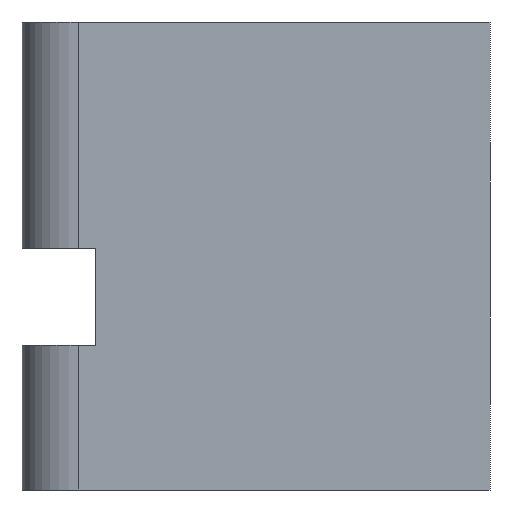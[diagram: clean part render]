
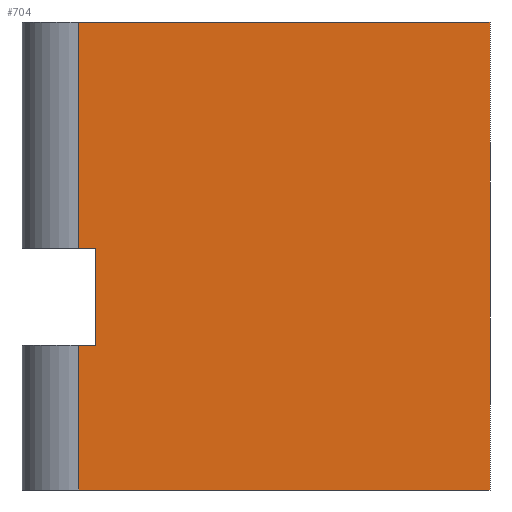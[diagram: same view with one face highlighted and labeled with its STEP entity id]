
A CAD part, left-side view. The second image highlights one B-rep face of the part: STEP entity #704.
In plain terms, the highlighted planar face has unit normal (-1, 0, 0).
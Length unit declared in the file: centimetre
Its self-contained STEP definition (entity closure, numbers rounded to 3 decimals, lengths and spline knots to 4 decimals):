
#2 = EDGE_CURVE ( 'NONE', #586, #856, #378, .T. ) ;
#11 = CARTESIAN_POINT ( 'NONE',  ( 0., 878.8506, 516.3605 ) ) ;
#23 = CARTESIAN_POINT ( 'NONE',  ( 0., 841.9747, 308.9249 ) ) ;
#27 = VECTOR ( 'NONE', #652, 100. ) ;
#36 = DIRECTION ( 'NONE',  ( 1., 0., 0. ) ) ;
#63 = VECTOR ( 'NONE', #627, 100. ) ;
#92 = DIRECTION ( 'NONE',  ( 0., 0., -1. ) ) ;
#97 = CARTESIAN_POINT ( 'NONE',  ( 0., 878.8506, 308.9249 ) ) ;
#108 = DIRECTION ( 'NONE',  ( 0., 0., -1. ) ) ;
#111 = CARTESIAN_POINT ( 'NONE',  ( 0., 878.8506, 1000. ) ) ;
#129 = EDGE_CURVE ( 'NONE', #579, #178, #594, .T. ) ;
#178 = VERTEX_POINT ( 'NONE', #11 ) ;
#198 = DIRECTION ( 'NONE',  ( 0., 0., 1. ) ) ;
#232 = CARTESIAN_POINT ( 'NONE',  ( 0., 841.9747, 308.9249 ) ) ;
#236 = CARTESIAN_POINT ( 'NONE',  ( 0., 841.9747, 308.9249 ) ) ;
#237 = EDGE_CURVE ( 'NONE', #243, #551, #471, .T. ) ;
#243 = VERTEX_POINT ( 'NONE', #747 ) ;
#250 = EDGE_CURVE ( 'NONE', #856, #579, #756, .T. ) ;
#270 = VECTOR ( 'NONE', #505, 100. ) ;
#271 = EDGE_CURVE ( 'NONE', #559, #791, #556, .T. ) ;
#277 = DIRECTION ( 'NONE',  ( 0., 0., -1. ) ) ;
#280 = ORIENTED_EDGE ( 'NONE', *, *, #316, .F. ) ;
#287 = ORIENTED_EDGE ( 'NONE', *, *, #521, .T. ) ;
#289 = CARTESIAN_POINT ( 'NONE',  ( 0., 0., 0. ) ) ;
#291 = VECTOR ( 'NONE', #108, 100. ) ;
#316 = EDGE_CURVE ( 'NONE', #791, #551, #359, .T. ) ;
#349 = DIRECTION ( 'NONE',  ( 0., -1., 0. ) ) ;
#359 = LINE ( 'NONE', #765, #489 ) ;
#377 = AXIS2_PLACEMENT_3D ( 'NONE', #635, #36, #277 ) ;
#378 = LINE ( 'NONE', #236, #27 ) ;
#389 = VECTOR ( 'NONE', #349, 100. ) ;
#399 = VECTOR ( 'NONE', #198, 100. ) ;
#406 = ORIENTED_EDGE ( 'NONE', *, *, #237, .T. ) ;
#461 = CARTESIAN_POINT ( 'NONE',  ( 0., 841.9747, 516.3605 ) ) ;
#471 = LINE ( 'NONE', #811, #389 ) ;
#489 = VECTOR ( 'NONE', #92, 100. ) ;
#505 = DIRECTION ( 'NONE',  ( 0., 0., -1. ) ) ;
#513 = EDGE_LOOP ( 'NONE', ( #854, #642, #287, #406, #280, #863, #532, #604 ) ) ;
#517 = EDGE_CURVE ( 'NONE', #559, #178, #636, .T. ) ;
#521 = EDGE_CURVE ( 'NONE', #586, #243, #703, .T. ) ;
#532 = ORIENTED_EDGE ( 'NONE', *, *, #517, .T. ) ;
#551 = VERTEX_POINT ( 'NONE', #289 ) ;
#556 = LINE ( 'NONE', #700, #63 ) ;
#559 = VERTEX_POINT ( 'NONE', #839 ) ;
#579 = VERTEX_POINT ( 'NONE', #710 ) ;
#586 = VERTEX_POINT ( 'NONE', #97 ) ;
#594 = LINE ( 'NONE', #461, #761 ) ;
#604 = ORIENTED_EDGE ( 'NONE', *, *, #129, .F. ) ;
#627 = DIRECTION ( 'NONE',  ( 0., -1., 0. ) ) ;
#635 = CARTESIAN_POINT ( 'NONE',  ( 0., 1000., 1000. ) ) ;
#636 = LINE ( 'NONE', #641, #291 ) ;
#640 = FACE_OUTER_BOUND ( 'NONE', #513, .T. ) ;
#641 = CARTESIAN_POINT ( 'NONE',  ( 0., 878.8506, 1000. ) ) ;
#642 = ORIENTED_EDGE ( 'NONE', *, *, #2, .F. ) ;
#652 = DIRECTION ( 'NONE',  ( 0., -1., 0. ) ) ;
#700 = CARTESIAN_POINT ( 'NONE',  ( 0., 1000., 1000. ) ) ;
#703 = LINE ( 'NONE', #111, #270 ) ;
#704 = ADVANCED_FACE ( 'NONE', ( #640 ), #709, .F. ) ;
#707 = CARTESIAN_POINT ( 'NONE',  ( 0., 0., 1000. ) ) ;
#709 = PLANE ( 'NONE',  #377 ) ;
#710 = CARTESIAN_POINT ( 'NONE',  ( 0., 841.9747, 516.3605 ) ) ;
#739 = DIRECTION ( 'NONE',  ( 0., 1., 0. ) ) ;
#747 = CARTESIAN_POINT ( 'NONE',  ( 0., 878.8506, 0. ) ) ;
#756 = LINE ( 'NONE', #23, #399 ) ;
#761 = VECTOR ( 'NONE', #739, 100. ) ;
#765 = CARTESIAN_POINT ( 'NONE',  ( 0., 0., 1000. ) ) ;
#791 = VERTEX_POINT ( 'NONE', #707 ) ;
#811 = CARTESIAN_POINT ( 'NONE',  ( 0., 1000., 0. ) ) ;
#839 = CARTESIAN_POINT ( 'NONE',  ( 0., 878.8506, 1000. ) ) ;
#854 = ORIENTED_EDGE ( 'NONE', *, *, #250, .F. ) ;
#856 = VERTEX_POINT ( 'NONE', #232 ) ;
#863 = ORIENTED_EDGE ( 'NONE', *, *, #271, .F. ) ;
